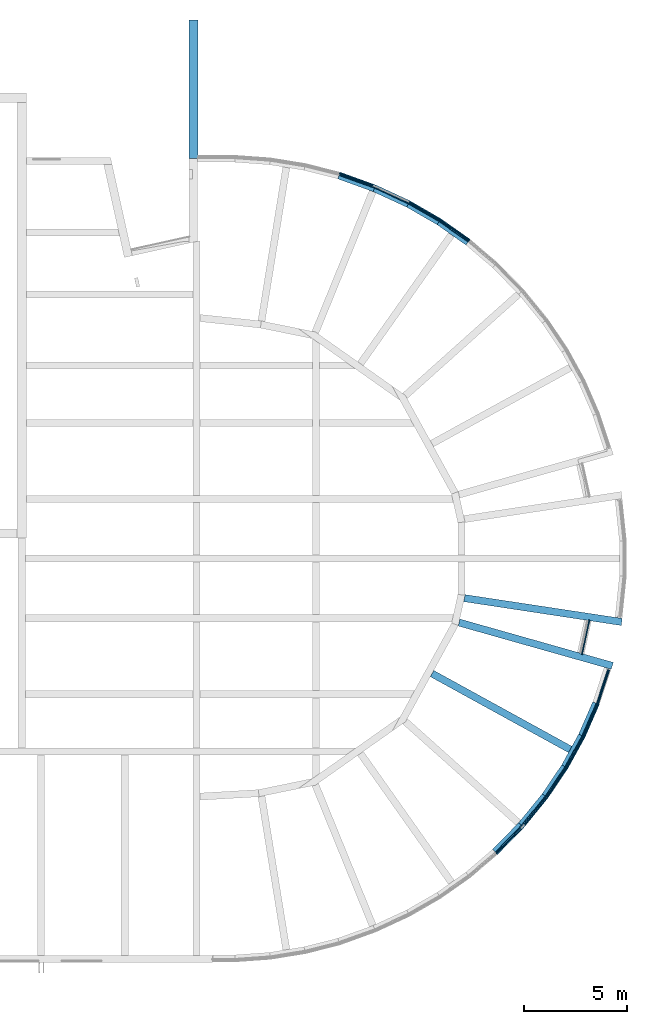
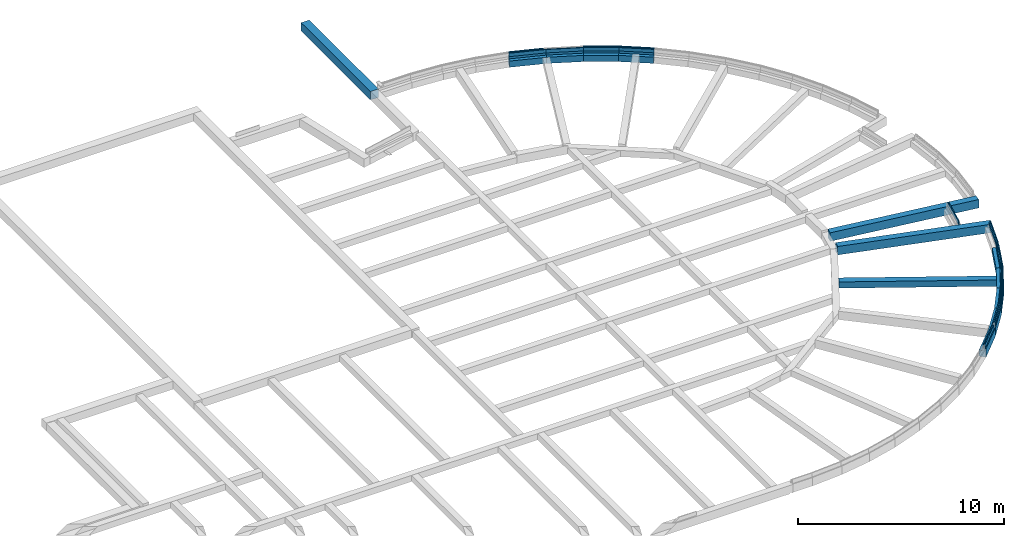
# One storey, part 6 of 11: 33 walls.
"""IFC2X3 building model written with IfcOpenShell, lengths in millimetres."""

import ifcopenshell
import ifcopenshell.guid

model = None  # the IFC model being written
_history = None  # IfcOwnerHistory: only IFC2X3 demands one
_inside = {}  # id of a spatial element -> (the spatial element, [elements in it])
_under = {}  # id of a project, library or spatial element -> (it, [spatial elements below it])
_declared = {}  # id of a project -> (the project, [libraries it declares])
_typed = {}  # id of a type object -> (the type object, [elements of that type])
_made_of = {}  # id of a material, layer set ... -> (it, [elements and type objects made of it])


def new_model(schema):
    """Start an empty IFC model of exactly this schema.

    Asked for "IFC4X3", IfcOpenShell would pick the latest addendum, in which some entities
    have other attributes; the version numbers below select the first issue.
    IFC2X3 requires an IfcOwnerHistory on every rooted entity: one is made here for all.
    """
    global model, _history
    if schema == "IFC4X3":
        model = ifcopenshell.file(schema_version=(4, 3, 0, 0))
    else:
        model = ifcopenshell.file(schema=schema)
    _inside.clear()
    _under.clear()
    _declared.clear()
    _typed.clear()
    _made_of.clear()
    _history = None
    if model.schema == "IFC2X3":
        org = make("IfcOrganization", Name="unknown")
        user = make(
            "IfcPersonAndOrganization",
            ThePerson=make("IfcPerson", FamilyName="unknown"),
            TheOrganization=org,
        )
        app = make(
            "IfcApplication",
            ApplicationDeveloper=org,
            Version="unknown",
            ApplicationFullName="unknown",
            ApplicationIdentifier="unknown",
        )
        _history = make(
            "IfcOwnerHistory",
            OwningUser=user,
            OwningApplication=app,
            ChangeAction="ADDED",
            CreationDate=0,
        )
    return model


def make(cls, **values):
    """One entity of the class cls with the attributes given. An attribute that is None is left unset."""
    return model.create_entity(
        cls, **{name: value for name, value in values.items() if value is not None}
    )


def entity(cls, *values):
    """Any entity or typed value of the class cls, its attributes in the order of the schema. None: left unset."""
    e = model.create_entity(cls)
    for i, value in enumerate(values):
        if value is not None:
            e[i] = value
    return e


def rooted(cls, **values):
    """An entity with a GlobalId (a new one), such as an element, a storey or a relation."""
    return make(cls, GlobalId=ifcopenshell.guid.new(), OwnerHistory=_history, **values)


def si_unit(unit_type, name, prefix=None):
    """IfcSIUnit, for example si_unit("LENGTHUNIT", "METRE", prefix="MILLI")."""
    return make("IfcSIUnit", UnitType=unit_type, Prefix=prefix, Name=name)


def converted_unit(unit_type, name, factor, base, dimensions=None, offset=None):
    """IfcConversionBasedUnit, such as the inch: factor (a typed value) times the base unit."""
    return make(
        "IfcConversionBasedUnit"
        if offset is None
        else "IfcConversionBasedUnitWithOffset",
        ConversionOffset=offset,
        Dimensions=None
        if dimensions is None
        else entity("IfcDimensionalExponents", *dimensions),
        UnitType=unit_type,
        Name=name,
        ConversionFactor=make(
            "IfcMeasureWithUnit", ValueComponent=factor, UnitComponent=base
        ),
    )


def derived_unit(unit_type, elements):
    """IfcDerivedUnit: a product of units, each with its exponent."""
    return make(
        "IfcDerivedUnit",
        Elements=[
            make("IfcDerivedUnitElement", Unit=unit, Exponent=power)
            for unit, power in elements
        ],
        UnitType=unit_type,
    )


def assignment(units):
    """IfcUnitAssignment: the units of a project."""
    return None if units is None else make("IfcUnitAssignment", Units=units)


def point(xyz):
    """IfcCartesianPoint."""
    return None if xyz is None else make("IfcCartesianPoint", Coordinates=xyz)


def direction(xyz):
    """IfcDirection."""
    return None if xyz is None else make("IfcDirection", DirectionRatios=xyz)


def frame(location, z_axis=None, x_axis=None):
    """IfcAxis2Placement3D, a coordinate frame: its origin and axes. An axis left out is left unset."""
    return make(
        "IfcAxis2Placement3D",
        Location=point(location),
        Axis=direction(z_axis),
        RefDirection=direction(x_axis),
    )


def frame_2d(location, x_axis=None):
    """IfcAxis2Placement2D, a coordinate frame in the plane: its origin and x axis."""
    return make(
        "IfcAxis2Placement2D", Location=point(location), RefDirection=direction(x_axis)
    )


def origin():
    """The frame at (0, 0, 0) with its axes left unset."""
    return frame((0.0, 0.0, 0.0))


def place(relative_to, where):
    """IfcLocalPlacement: puts the frame where relative to a parent placement (None: the world)."""
    return make(
        "IfcLocalPlacement", PlacementRelTo=relative_to, RelativePlacement=where
    )


def context(
    kind, dimensions, precision=None, world=None, true_north=None, identifier=None
):
    """IfcGeometricRepresentationContext, for example the 3D "Model" context."""
    return make(
        "IfcGeometricRepresentationContext",
        ContextIdentifier=identifier,
        ContextType=kind,
        CoordinateSpaceDimension=dimensions,
        Precision=precision,
        WorldCoordinateSystem=world,
        TrueNorth=true_north,
    )


def subcontext(parent, identifier, kind, view, scale=None):
    """IfcGeometricRepresentationSubContext, for example "Body" below "Model"."""
    return make(
        "IfcGeometricRepresentationSubContext",
        ContextIdentifier=identifier,
        ContextType=kind,
        ParentContext=parent,
        TargetScale=scale,
        TargetView=view,
    )


def project(units=None, contexts=None):
    """IfcProject with its units and contexts."""
    return rooted(
        "IfcProject",
        Name="project",
        RepresentationContexts=contexts,
        UnitsInContext=assignment(units),
    )


def spatial(cls, under=None, at=None, **own):
    """A site, building, storey or space (cls), placed at a placement, below another one or the project."""
    s = rooted(cls, ObjectPlacement=at, **own)
    if under is not None:
        _under.setdefault(under.id(), (under, []))[1].append(s)
    return s


def polyline(points):
    """IfcPolyline through the points."""
    return make("IfcPolyline", Points=[point(p) for p in points])


def profile(cls, at=None, kind="AREA", **sizes):
    """A parametric profile (cls). Its sizes go by their IFC names, for example OverallWidth=200.0."""
    return make(cls, ProfileType=kind, Position=at, **sizes)


def rectangle(**sizes):
    """IfcRectangleProfileDef."""
    return profile("IfcRectangleProfileDef", **sizes)


def outline(outer, holes=None, kind="AREA"):
    """IfcArbitraryClosedProfileDef: a profile drawn as a closed curve; with holes, ...WithVoids."""
    if holes is None:
        return make("IfcArbitraryClosedProfileDef", ProfileType=kind, OuterCurve=outer)
    return make(
        "IfcArbitraryProfileDefWithVoids",
        ProfileType=kind,
        OuterCurve=outer,
        InnerCurves=holes,
    )


def extrude(swept, where, along, depth):
    """IfcExtrudedAreaSolid: the profile swept, set in the frame where, extruded along a direction by depth."""
    return make(
        "IfcExtrudedAreaSolid",
        SweptArea=swept,
        Position=where,
        ExtrudedDirection=direction(along),
        Depth=depth,
    )


def clip(a, b, op="DIFFERENCE"):
    """IfcBooleanClippingResult: the solid a cut by the half space b."""
    return make(
        "IfcBooleanClippingResult", Operator=op, FirstOperand=a, SecondOperand=b
    )


def bounded_halfspace(plane, agree, where, boundary):
    """IfcPolygonalBoundedHalfSpace: a half space limited to a polygon's prism."""
    return make(
        "IfcPolygonalBoundedHalfSpace",
        BaseSurface=make("IfcPlane", Position=plane),
        AgreementFlag=agree,
        Position=where,
        PolygonalBoundary=boundary,
    )


def shape(context_of_items, identifier, shape_type, items):
    """IfcShapeRepresentation: the items that make up one representation, for example the "Body"."""
    return make(
        "IfcShapeRepresentation",
        ContextOfItems=context_of_items,
        RepresentationIdentifier=identifier,
        RepresentationType=shape_type,
        Items=items,
    )


def material(Name=None, Category=None):
    """IfcMaterial."""
    return make("IfcMaterial", Name=Name, Category=Category)


def layer(
    of_material, thickness, ventilated=None, Name=None, Category=None, Priority=None
):
    """IfcMaterialLayer: one layer of a wall or slab, of a material (None: an air gap)."""
    return make(
        "IfcMaterialLayer",
        Material=of_material,
        LayerThickness=thickness,
        IsVentilated=ventilated,
        Name=Name,
        Category=Category,
        Priority=Priority,
    )


def layer_set(layers, Name=None):
    """IfcMaterialLayerSet."""
    return make("IfcMaterialLayerSet", MaterialLayers=layers, LayerSetName=Name)


def layer_usage(for_layer_set, set_direction, sense, offset, extent=None):
    """IfcMaterialLayerSetUsage: how a layer set lies in its element."""
    return make(
        "IfcMaterialLayerSetUsage",
        ForLayerSet=for_layer_set,
        LayerSetDirection=set_direction,
        DirectionSense=sense,
        OffsetFromReferenceLine=offset,
        ReferenceExtent=extent,
    )


def made_of(thing, what):
    """Note that an element or type object is made of a material, layer set ...; save() writes the relation."""
    if what is not None:
        _made_of.setdefault(what.id(), (what, []))[1].append(thing)
    return thing


def type_object(cls, material=None, **own):
    """A type object (cls), such as IfcWallType, which elements share."""
    return made_of(rooted(cls, **own), material)


def element(
    cls,
    number,
    at=None,
    inside=None,
    cuts=None,
    type_object=None,
    material=None,
    context=None,
    identifier="Body",
    shape_type=None,
    held_by="IfcProductDefinitionShape",
    body=None,
    shapes=None,
    **own,
):
    """One element of the class cls, such as IfcWall. Its Tag is "e" and its number.

    at: its placement. inside: the storey or other place that contains it. cuts: it is an
    opening in that element (IfcRelVoidsElement). A single representation is given by context,
    identifier, shape_type and body (its items); several are given by shapes. held_by: the class
    of the entity that holds the representations. save() writes the other relations.
    """
    e = rooted(cls, Tag="e%d" % number, ObjectPlacement=at, **own)
    if body is not None:
        shapes = [shape(context, identifier, shape_type, body)]
    if shapes is not None:
        e.Representation = make(held_by, Representations=shapes)
    if inside is not None:
        _inside.setdefault(inside.id(), (inside, []))[1].append(e)
    if cuts is not None:
        rooted(
            "IfcRelVoidsElement", RelatingBuildingElement=cuts, RelatedOpeningElement=e
        )
    if type_object is not None:
        _typed.setdefault(type_object.id(), (type_object, []))[1].append(e)
    return made_of(e, material)


def aggregate(whole, parts):
    """IfcRelAggregates: a whole, such as a stair, and the parts it consists of."""
    return rooted("IfcRelAggregates", RelatingObject=whole, RelatedObjects=parts)


def save(model, path):
    """Write the relations noted so far, then the file.

    IfcRelAggregates (storeys below a building ...), IfcRelContainedInSpatialStructure (elements
    in a storey), IfcRelDefinesByType, IfcRelAssociatesMaterial and IfcRelDeclares: one each for
    every whole, place, type object, material and project.
    """
    for whole, parts in _under.values():
        aggregate(whole, parts)
    for where, things in _inside.values():
        rooted(
            "IfcRelContainedInSpatialStructure",
            RelatedElements=things,
            RelatingStructure=where,
        )
    for kind, things in _typed.values():
        rooted("IfcRelDefinesByType", RelatedObjects=things, RelatingType=kind)
    for what, things in _made_of.values():
        rooted("IfcRelAssociatesMaterial", RelatedObjects=things, RelatingMaterial=what)
    for by, libraries in _declared.values():
        rooted("IfcRelDeclares", RelatingContext=by, RelatedDefinitions=libraries)
    model.write(path)


model = new_model("IFC2X3")

# Units and contexts
model_context = context("Model", 3, precision=0.01, world=origin(), true_north=direction((6.12303176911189e-17, 1.0)))
body_context = subcontext(model_context, "Body", "Model", "MODEL_VIEW")
ifc_project = project(units=[si_unit("LENGTHUNIT", "METRE", prefix="MILLI"), si_unit("AREAUNIT", "SQUARE_METRE"), si_unit("VOLUMEUNIT", "CUBIC_METRE"), converted_unit("PLANEANGLEUNIT", "DEGREE", entity("IfcRatioMeasure", 0.0174532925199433), si_unit("PLANEANGLEUNIT", "RADIAN"), dimensions=[0, 0, 0, 0, 0, 0, 0]), si_unit("MASSUNIT", "GRAM", prefix="KILO"), derived_unit("MASSDENSITYUNIT", [(si_unit("MASSUNIT", "GRAM", prefix="KILO"), 1), (si_unit("LENGTHUNIT", "METRE"), -3)]), derived_unit("MOMENTOFINERTIAUNIT", [(si_unit("LENGTHUNIT", "METRE"), 4)]), si_unit("TIMEUNIT", "SECOND"), si_unit("FREQUENCYUNIT", "HERTZ"), si_unit("THERMODYNAMICTEMPERATUREUNIT", "DEGREE_CELSIUS"), derived_unit("THERMALTRANSMITTANCEUNIT", [(si_unit("MASSUNIT", "GRAM", prefix="KILO"), 1), (si_unit("THERMODYNAMICTEMPERATUREUNIT", "KELVIN"), -1), (si_unit("TIMEUNIT", "SECOND"), -3)]), derived_unit("VOLUMETRICFLOWRATEUNIT", [(si_unit("LENGTHUNIT", "METRE"), 3), (si_unit("TIMEUNIT", "SECOND"), -1)]), si_unit("ELECTRICCURRENTUNIT", "AMPERE"), si_unit("ELECTRICVOLTAGEUNIT", "VOLT"), si_unit("POWERUNIT", "WATT"), si_unit("FORCEUNIT", "NEWTON", prefix="KILO"), si_unit("ILLUMINANCEUNIT", "LUX"), si_unit("LUMINOUSFLUXUNIT", "LUMEN"), si_unit("LUMINOUSINTENSITYUNIT", "CANDELA"), derived_unit("USERDEFINED", [(si_unit("MASSUNIT", "GRAM", prefix="KILO"), -1), (si_unit("LENGTHUNIT", "METRE"), -2), (si_unit("TIMEUNIT", "SECOND"), 3), (si_unit("LUMINOUSFLUXUNIT", "LUMEN"), 1)]), derived_unit("LINEARVELOCITYUNIT", [(si_unit("LENGTHUNIT", "METRE"), 1), (si_unit("TIMEUNIT", "SECOND"), -1)]), si_unit("PRESSUREUNIT", "PASCAL"), derived_unit("USERDEFINED", [(si_unit("LENGTHUNIT", "METRE"), -2), (si_unit("MASSUNIT", "GRAM", prefix="KILO"), 1), (si_unit("TIMEUNIT", "SECOND"), -2)]), derived_unit("LINEARFORCEUNIT", [(si_unit("MASSUNIT", "GRAM", prefix="KILO"), 1), (si_unit("LENGTHUNIT", "METRE"), 1), (si_unit("TIMEUNIT", "SECOND"), -2), (si_unit("LENGTHUNIT", "METRE"), -1)]), derived_unit("PLANARFORCEUNIT", [(si_unit("MASSUNIT", "GRAM", prefix="KILO"), 1), (si_unit("LENGTHUNIT", "METRE"), 1), (si_unit("TIMEUNIT", "SECOND"), -2), (si_unit("LENGTHUNIT", "METRE"), -2)])], contexts=[model_context])

# Site, building, storey
site_placement = place(None, origin())
site = spatial("IfcSite", under=ifc_project, at=site_placement, Name="Default", CompositionType="ELEMENT")
building_placement = place(site_placement, origin())
building = spatial("IfcBuilding", under=site, at=building_placement, Name="-", CompositionType="ELEMENT")
storey_placement = place(building_placement, frame((0.0, 0.0, -780.0)))
storey = spatial("IfcBuildingStorey", under=building, at=storey_placement, Name="ok. fundering", CompositionType="ELEMENT", Elevation=-780.0)

# Walls
ifc_material_1 = material(Name="NLRS_g2_baksteen  rood genuanceerd Klamp")
ifc_layer_1 = layer(ifc_material_1, 50.0)
ifc_layer_set_1 = layer_set([ifc_layer_1], Name="Basic Wall:NLRS_20_WA_Metselwerk klamp, Eems wf-p-0081-25")
ifc_layer_usage_1 = layer_usage(ifc_layer_set_1, "AXIS2", "NEGATIVE", 25.0)
wall_type_1 = type_object("IfcWallType", Name="Basic Wall:NLRS_20_WA_Metselwerk klamp, Eems wf-p-0081-25", PredefinedType="STANDARD", material=ifc_layer_set_1)
wall_1_placement = place(storey_placement, frame((68080.0441611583, 14958.1958362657, 500.0), z_axis=(0.0, 0.0, 1.0), x_axis=(0.211580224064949, 0.977360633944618, 0.0)))
element("IfcWallStandardCase", 1, at=wall_1_placement, inside=storey, type_object=wall_type_1, material=ifc_layer_usage_1, Name="Basic Wall:NLRS_20_WA_Metselwerk klamp, Eems wf-p-0081-25", ObjectType="Basic Wall:NLRS_20_WA_Metselwerk klamp, Eems wf-p-0081-25", context=body_context, shape_type="SweptSolid", body=[
    extrude(rectangle(XDim=1713.26869048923, YDim=50.0000000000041, at=frame_2d((856.634345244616, -1.93978166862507e-12), x_axis=(-1.0, 0.0))), origin(), (0.0, 0.0, 1.0), 239.99999999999),
])
ifc_layer_usage_2 = layer_usage(ifc_layer_set_1, "AXIS2", "NEGATIVE", 25.0)
wall_2_placement = place(storey_placement, frame((63924.1781699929, 5288.65629271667, 500.0), z_axis=(0.0, 0.0, 1.0), x_axis=(0.699555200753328, 0.714578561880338, 0.0)))
element("IfcWallStandardCase", 2, at=wall_2_placement, inside=storey, type_object=wall_type_1, material=ifc_layer_usage_2, Name="Basic Wall:NLRS_20_WA_Metselwerk klamp, Eems wf-p-0081-25", ObjectType="Basic Wall:NLRS_20_WA_Metselwerk klamp, Eems wf-p-0081-25", context=body_context, shape_type="SweptSolid", body=[
    extrude(outline(polyline([(1721.50491262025, -25.0), (1720.37161252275, 25.0), (2.27048671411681, 25.0), (0.0, -25.0), (1721.50491262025, -25.0)])), origin(), (0.0, 0.0, 1.0), 239.99999999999),
])
ifc_layer_usage_3 = layer_usage(ifc_layer_set_1, "AXIS2", "NEGATIVE", 25.0)
wall_3_placement = place(storey_placement, frame((65278.983931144, 6687.18494779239, 500.0), z_axis=(0.0, 0.0, 1.0), x_axis=(0.631996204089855, 0.774971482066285, 0.0)))
element("IfcWallStandardCase", 3, at=wall_3_placement, inside=storey, type_object=wall_type_1, material=ifc_layer_usage_3, Name="Basic Wall:NLRS_20_WA_Metselwerk klamp, Eems wf-p-0081-25", ObjectType="Basic Wall:NLRS_20_WA_Metselwerk klamp, Eems wf-p-0081-25", context=body_context, shape_type="SweptSolid", body=[
    extrude(outline(polyline([(1721.50491261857, -25.0), (1719.23442590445, 25.0), (1.13330009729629, 25.0), (0.0, -25.0), (1721.50491261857, -25.0)])), origin(), (0.0, 0.0, 1.0), 239.99999999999),
])
ifc_layer_usage_4 = layer_usage(ifc_layer_set_1, "AXIS2", "NEGATIVE", 25.0)
wall_4_placement = place(storey_placement, frame((66365.6162519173, 8019.48119357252, 500.0), z_axis=(0.0, 0.0, 1.0), x_axis=(0.559157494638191, 0.829061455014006, 0.0)))
element("IfcWallStandardCase", 4, at=wall_4_placement, inside=storey, type_object=wall_type_1, material=ifc_layer_usage_4, Name="Basic Wall:NLRS_20_WA_Metselwerk klamp, Eems wf-p-0081-25", ObjectType="Basic Wall:NLRS_20_WA_Metselwerk klamp, Eems wf-p-0081-25", context=body_context, shape_type="SweptSolid", body=[
    extrude(outline(polyline([(1733.38823576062, -25.0), (1731.11774904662, 25.0), (2.27048671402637, 25.0), (0.0, -25.0), (1733.38823576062, -25.0)])), origin(), (0.0, 0.0, 1.0), 239.99999999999),
])
ifc_layer_usage_5 = layer_usage(ifc_layer_set_1, "AXIS2", "NEGATIVE", 25.0)
wall_5_placement = place(storey_placement, frame((67333.6716300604, 9454.63053521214, 500.0), z_axis=(0.0, 0.0, 1.0), x_axis=(0.481716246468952, 0.876327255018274, 0.0)))
element("IfcWallStandardCase", 5, at=wall_5_placement, inside=storey, type_object=wall_type_1, material=ifc_layer_usage_5, Name="Basic Wall:NLRS_20_WA_Metselwerk klamp, Eems wf-p-0081-25", ObjectType="Basic Wall:NLRS_20_WA_Metselwerk klamp, Eems wf-p-0081-25", context=body_context, shape_type="SweptSolid", body=[
    extrude(outline(polyline([(1733.38433557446, -25.0), (1731.11248812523, 25.0), (2.27048671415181, 25.0), (0.0, -25.0), (1733.38433557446, -25.0)])), origin(), (0.0, 0.0, 1.0), 239.99999999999),
])
ifc_layer_usage_6 = layer_usage(ifc_layer_set_1, "AXIS2", "NEGATIVE", 25.0)
wall_6_placement = place(storey_placement, frame((68167.6691680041, 10971.6060686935, 500.0), z_axis=(0.0, 0.0, 1.0), x_axis=(0.400260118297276, 0.916401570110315, 0.0)))
element("IfcWallStandardCase", 6, at=wall_6_placement, inside=storey, type_object=wall_type_1, material=ifc_layer_usage_6, Name="Basic Wall:NLRS_20_WA_Metselwerk klamp, Eems wf-p-0081-25", ObjectType="Basic Wall:NLRS_20_WA_Metselwerk klamp, Eems wf-p-0081-25", context=body_context, shape_type="SweptSolid", body=[
    extrude(outline(polyline([(1733.32005030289, -25.0), (1731.04956358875, 25.0), (2.27184744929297, 25.0), (0.0, -25.0), (1733.32005030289, -25.0)])), origin(), (0.0, 0.0, 1.0), 239.99999999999),
])
ifc_layer_usage_7 = layer_usage(ifc_layer_set_1, "AXIS2", "NEGATIVE", 25.0)
wall_7_placement = place(storey_placement, frame((68860.6354297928, 12557.9057055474, 500.0), z_axis=(0.0, 0.0, 1.0), x_axis=(0.315556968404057, 0.948906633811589, 0.0)))
element("IfcWallStandardCase", 7, at=wall_7_placement, inside=storey, type_object=wall_type_1, material=ifc_layer_usage_7, Name="Basic Wall:NLRS_20_WA_Metselwerk klamp, Eems wf-p-0081-25", ObjectType="Basic Wall:NLRS_20_WA_Metselwerk klamp, Eems wf-p-0081-25", context=body_context, shape_type="SweptSolid", body=[
    extrude(outline(polyline([(1731.08902810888, -25.0), (1731.08902810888, 25.0), (2.27048671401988, 25.0), (0.0, -25.0), (1731.08902810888, -25.0)])), origin(), (0.0, 0.0, 1.0), 239.99999999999),
])
ifc_layer_usage_8 = layer_usage(ifc_layer_set_1, "AXIS2", "NEGATIVE", 25.0)
wall_8_placement = place(storey_placement, frame((62607.7572336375, 35064.1687844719, 500.0), z_axis=(0.0, 0.0, 1.0), x_axis=(-0.817057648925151, 0.576555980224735, 0.0)))
element("IfcWallStandardCase", 8, at=wall_8_placement, inside=storey, type_object=wall_type_1, material=ifc_layer_usage_8, Name="Basic Wall:NLRS_20_WA_Metselwerk klamp, Eems wf-p-0081-25", ObjectType="Basic Wall:NLRS_20_WA_Metselwerk klamp, Eems wf-p-0081-25", context=body_context, shape_type="SweptSolid", body=[
    extrude(outline(polyline([(1733.38433557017, -25.0), (1731.11248812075, 25.0), (2.27048671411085, 25.0), (0.0, -25.0), (1733.38433557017, -25.0)])), origin(), (0.0, 0.0, 1.0), 239.99999999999),
])
ifc_layer_usage_9 = layer_usage(ifc_layer_set_1, "AXIS2", "NEGATIVE", 25.0)
wall_9_placement = place(storey_placement, frame((61193.3941025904, 36062.3389082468, 500.0), z_axis=(0.0, 0.0, 1.0), x_axis=(-0.865976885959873, 0.500084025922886, 0.0)))
element("IfcWallStandardCase", 9, at=wall_9_placement, inside=storey, type_object=wall_type_1, material=ifc_layer_usage_9, Name="Basic Wall:NLRS_20_WA_Metselwerk klamp, Eems wf-p-0081-25", ObjectType="Basic Wall:NLRS_20_WA_Metselwerk klamp, Eems wf-p-0081-25", context=body_context, shape_type="SweptSolid", body=[
    extrude(outline(polyline([(1735.82446358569, -25.0), (1733.55397687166, 25.0), (2.27184744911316, 25.0), (0.0, -25.0), (1735.82446358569, -25.0)])), origin(), (0.0, 0.0, 1.0), 239.99999999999),
])
ifc_layer_usage_10 = layer_usage(ifc_layer_set_1, "AXIS2", "NEGATIVE", 25.0)
wall_10_placement = place(storey_placement, frame((57931.2533731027, 37732.200155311, 500.0), z_axis=(0.0, 0.0, 1.0), x_axis=(-0.94041948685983, 0.3400164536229, 0.0)))
element("IfcWallStandardCase", 10, at=wall_10_placement, inside=storey, type_object=wall_type_1, material=ifc_layer_usage_10, Name="Basic Wall:NLRS_20_WA_Metselwerk klamp, Eems wf-p-0081-25", ObjectType="Basic Wall:NLRS_20_WA_Metselwerk klamp, Eems wf-p-0081-25", context=body_context, shape_type="SweptSolid", body=[
    extrude(outline(polyline([(1734.1639219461, -25.0), (1731.70824427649, 25.0), (1.01703295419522, 25.0), (0.0, -25.0), (1734.1639219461, -25.0)])), origin(), (0.0, 0.0, 1.0), 240.0),
])
ifc_material_2 = material(Name="NLRS_f2_beton")
ifc_layer_2 = layer(ifc_material_2, 450.0)
ifc_layer_set_2 = layer_set([ifc_layer_2], Name="Basic Wall:NLRS_16_WA_funderingsbalk 450x...mm_gen_aly")
ifc_layer_usage_11 = layer_usage(ifc_layer_set_2, "AXIS2", "NEGATIVE", 225.0)
wall_type_2 = type_object("IfcWallType", Name="Basic Wall:NLRS_16_WA_funderingsbalk 450x...mm_gen_aly", PredefinedType="STANDARD", material=ifc_layer_set_2)
wall_11_placement = place(storey_placement, frame((49211.6203901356, 39041.6788221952, 0.0), z_axis=(0.0, 0.0, 1.0), x_axis=(0.0, 1.0, 0.0)))
element("IfcWallStandardCase", 11, at=wall_11_placement, inside=storey, type_object=wall_type_2, material=ifc_layer_usage_11, Name="Basic Wall:NLRS_16_WA_funderingsbalk 450x...mm_gen_aly", ObjectType="Basic Wall:NLRS_16_WA_funderingsbalk 450x...mm_gen_aly", context=body_context, shape_type="SweptSolid", body=[
    extrude(rectangle(XDim=6734.37071970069, YDim=450.000000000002, at=frame_2d((3367.18535985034, 7.105427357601e-14), x_axis=(-1.0, 0.0))), origin(), (0.0, 0.0, 1.0), 499.999999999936),
])
ifc_layer_3 = layer(ifc_material_2, 350.0)
ifc_layer_set_3 = layer_set([ifc_layer_3], Name="Basic Wall:NLRS_16_WA_funderingsbalk 350x...mm_gen_aly")
ifc_layer_usage_12 = layer_usage(ifc_layer_set_3, "AXIS2", "NEGATIVE", 175.0)
wall_type_3 = type_object("IfcWallType", Name="Basic Wall:NLRS_16_WA_funderingsbalk 350x...mm_gen_aly", PredefinedType="STANDARD", material=ifc_layer_set_3)
wall_12_placement = place(storey_placement, frame((65138.4651134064, 6671.96874138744, 0.0), z_axis=(0.0, 0.0, 1.0), x_axis=(-0.699555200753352, -0.714578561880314, 0.0)))
element("IfcWallStandardCase", 12, at=wall_12_placement, inside=storey, type_object=wall_type_3, material=ifc_layer_usage_12, Name="Basic Wall:NLRS_16_WA_funderingsbalk 350x...mm_gen_aly", ObjectType="Basic Wall:NLRS_16_WA_funderingsbalk 350x...mm_gen_aly", context=body_context, shape_type="Clipping", body=[
    clip(clip(extrude(outline(polyline([(1824.32324639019, -175.0), (1840.21665338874, 175.0), (0.0, 175.0), (15.8743567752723, -175.0), (197.136579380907, -175.0), (1824.32324639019, -175.0)])), origin(), (0.0, 0.0, 1.0), 499.999999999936), bounded_halfspace(frame((1832.76945696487, 11.0, 370.0), z_axis=(0.0, 0.0, -1.0), x_axis=(-0.714578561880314, -0.699555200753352, 0.0)), True, frame((1832.76945696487, 11.0, 370.0), z_axis=(0.0, 0.0, -1.0), x_axis=(-0.714578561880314, -0.699555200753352, 0.0)), polyline([(0.0, 0.0), (136.152748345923, -127.003021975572), (1428.43155512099, 1138.10680405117), (1304.34253451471, 1276.91992491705), (0.0, 0.0)]))), bounded_halfspace(frame((7.43827003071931, 11.0, 370.0), z_axis=(0.0, 1.0, 0.0), x_axis=(0.0, 0.0, 1.0)), True, frame((7.43827003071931, 11.0, 370.0), z_axis=(0.0, 1.0, 0.0), x_axis=(0.0, 0.0, 1.0)), polyline([(0.0, 0.0), (130.0, 1.12022624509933e-09), (130.0, 1825.33118693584), (0.0, 1825.33118693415), (0.0, 0.0)]))),
])
ifc_layer_usage_13 = layer_usage(ifc_layer_set_3, "AXIS2", "NEGATIVE", 175.0)
wall_13_placement = place(storey_placement, frame((66290.9062920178, 8086.26134416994, 0.0), z_axis=(0.0, 0.0, 1.0), x_axis=(-0.631996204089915, -0.774971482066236, 0.0)))
element("IfcWallStandardCase", 13, at=wall_13_placement, inside=storey, type_object=wall_type_3, material=ifc_layer_usage_13, Name="Basic Wall:NLRS_16_WA_funderingsbalk 350x...mm_gen_aly", ObjectType="Basic Wall:NLRS_16_WA_funderingsbalk 350x...mm_gen_aly", context=body_context, shape_type="Clipping", body=[
    clip(clip(extrude(outline(polyline([(1824.34229661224, -175.0), (1840.21665338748, 175.0), (0.0, 175.0), (15.8934069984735, -175.0), (1655.24486773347, -175.0), (1824.34229661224, -175.0)])), origin(), (0.0, 0.0, 1.0), 499.999999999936), bounded_halfspace(frame((1832.77838335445, 11.0, 370.0), z_axis=(0.0, 0.0, -1.0), x_axis=(-0.774971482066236, -0.631996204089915, 0.0)), True, frame((1832.77838335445, 11.0, 370.0), z_axis=(0.0, 0.0, -1.0), x_axis=(-0.774971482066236, -0.631996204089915, 0.0)), polyline([(0.0, 0.0), (124.089020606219, -138.813120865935), (1525.58533683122, 1004.11971266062), (1414.57961519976, 1153.60238134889), (0.0, 0.0)]))), bounded_halfspace(frame((7.44719642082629, 11.0, 370.0), z_axis=(0.0, 1.0, 0.0), x_axis=(0.0, 0.0, 1.0)), True, frame((7.44719642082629, 11.0, 370.0), z_axis=(0.0, 1.0, 0.0), x_axis=(0.0, 0.0, 1.0)), polyline([(0.0, 0.0), (130.0, 1.31460059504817e-09), (130.0, 1825.33118693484), (0.0, 1825.33118693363), (0.0, 0.0)]))),
])
ifc_layer_usage_14 = layer_usage(ifc_layer_set_3, "AXIS2", "NEGATIVE", 175.0)
wall_14_placement = place(storey_placement, frame((67253.2166892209, 9514.36468889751, 0.0), z_axis=(0.0, 0.0, 1.0), x_axis=(-0.559157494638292, -0.829061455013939, 0.0)))
element("IfcWallStandardCase", 14, at=wall_14_placement, inside=storey, type_object=wall_type_3, material=ifc_layer_usage_14, Name="Basic Wall:NLRS_16_WA_funderingsbalk 350x...mm_gen_aly", ObjectType="Basic Wall:NLRS_16_WA_funderingsbalk 350x...mm_gen_aly", context=body_context, shape_type="Clipping", body=[
    clip(clip(extrude(outline(polyline([(1722.03580219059, -175.0), (1737.92920918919, 175.0), (0.0, 175.0), (15.8934069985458, -175.0), (1722.03580219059, -175.0)])), origin(), (0.0, 0.0, 1.0), 499.999999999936), bounded_halfspace(frame((1730.48201276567, 11.0, 370.0), z_axis=(0.0, 0.0, -1.0), x_axis=(-0.829061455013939, -0.559157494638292, 0.0)), True, frame((1730.48201276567, 11.0, 370.0), z_axis=(0.0, 0.0, -1.0), x_axis=(-0.829061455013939, -0.559157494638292, 0.0)), polyline([(0.0, 0.0), (111.005721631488, -149.482668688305), (1525.50261825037, 804.519638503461), (1428.50175187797, 963.447831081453), (0.0, 0.0)]))), bounded_halfspace(frame((7.44719642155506, 11.0, 370.0), z_axis=(0.0, 1.0, 0.0), x_axis=(0.0, 0.0, 1.0)), True, frame((7.44719642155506, 11.0, 370.0), z_axis=(0.0, 1.0, 0.0), x_axis=(0.0, 0.0, 1.0)), polyline([(0.0, 0.0), (130.0, 0.0), (130.0, 1723.03481634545), (0.0, 1723.03481634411), (0.0, 0.0)]))),
])
ifc_layer_usage_15 = layer_usage(ifc_layer_set_3, "AXIS2", "NEGATIVE", 175.0)
wall_15_placement = place(storey_placement, frame((68082.1326862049, 11023.8049783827, 0.0), z_axis=(0.0, 0.0, 1.0), x_axis=(-0.481716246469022, -0.876327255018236, 0.0)))
element("IfcWallStandardCase", 15, at=wall_15_placement, inside=storey, type_object=wall_type_3, material=ifc_layer_usage_15, Name="Basic Wall:NLRS_16_WA_funderingsbalk 350x...mm_gen_aly", ObjectType="Basic Wall:NLRS_16_WA_funderingsbalk 350x...mm_gen_aly", context=body_context, shape_type="Clipping", body=[
    clip(clip(extrude(outline(polyline([(1722.03326273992, -175.0), (1737.92666973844, 175.0), (0.0, 175.0), (15.90293214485, -175.0), (697.860182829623, -175.0), (1047.86019032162, -175.0), (1722.03326273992, -175.0)])), origin(), (0.0, 0.0, 1.0), 499.999999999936), bounded_halfspace(frame((1730.47947331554, 11.0, 370.0), z_axis=(0.0, 0.0, -1.0), x_axis=(-0.876327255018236, -0.481716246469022, 0.0)), True, frame((1730.47947331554, 11.0, 370.0), z_axis=(0.0, 0.0, -1.0), x_axis=(-0.876327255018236, -0.481716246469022, 0.0)), polyline([(0.0, 0.0), (97.0008663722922, -158.928192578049), (687.797104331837, 165.831929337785), (994.511650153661, 334.432619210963), (1592.12937568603, 662.942506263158), (1509.93623428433, 830.010490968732), (0.0, 0.0)]))), bounded_halfspace(frame((7.45165963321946, 11.0, 370.0), z_axis=(0.0, 1.0, 0.0), x_axis=(0.0, 0.0, 1.0)), True, frame((7.45165963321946, 11.0, 370.0), z_axis=(0.0, 1.0, 0.0), x_axis=(0.0, 0.0, 1.0)), polyline([(0.0, 0.0), (130.0, 0.0), (130.0, 1723.02781368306), (0.0, 1723.02781368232), (0.0, 0.0)]))),
])
ifc_layer_usage_16 = layer_usage(ifc_layer_set_3, "AXIS2", "NEGATIVE", 175.0)
wall_16_placement = place(storey_placement, frame((68770.7166846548, 12602.1299737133, 0.0), z_axis=(0.0, 0.0, 1.0), x_axis=(-0.400260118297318, -0.916401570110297, 0.0)))
element("IfcWallStandardCase", 16, at=wall_16_placement, inside=storey, type_object=wall_type_3, material=ifc_layer_usage_16, Name="Basic Wall:NLRS_16_WA_funderingsbalk 350x...mm_gen_aly", ObjectType="Basic Wall:NLRS_16_WA_funderingsbalk 350x...mm_gen_aly", context=body_context, shape_type="Clipping", body=[
    clip(clip(extrude(outline(polyline([(1721.95945232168, -175.0), (1737.86238446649, 175.0), (0.0, 175.0), (15.8934069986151, -175.0), (1721.95945232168, -175.0)])), origin(), (0.0, 0.0, 1.0), 499.999999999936), bounded_halfspace(frame((1730.41072483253, 11.0, 370.0), z_axis=(0.0, 0.0, -1.0), x_axis=(-0.916401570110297, -0.400260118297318, 0.0)), True, frame((1730.41072483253, 11.0, 370.0), z_axis=(0.0, 0.0, -1.0), x_axis=(-0.916401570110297, -0.400260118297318, 0.0)), polyline([(0.0, 0.0), (82.1931414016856, -167.067984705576), (1645.6347440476, 515.802212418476), (1578.92648267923, 689.63358570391), (0.0, 0.0)]))), bounded_halfspace(frame((7.44719642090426, 11.0, 370.0), z_axis=(0.0, 1.0, 0.0), x_axis=(0.0, 0.0, 1.0)), True, frame((7.44719642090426, 11.0, 370.0), z_axis=(0.0, 1.0, 0.0), x_axis=(0.0, 0.0, 1.0)), polyline([(0.0, 0.0), (130.0, 1.29727517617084e-09), (130.0, 1722.96352841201), (0.0, 1722.96352841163), (0.0, 0.0)]))),
])
ifc_layer_usage_17 = layer_usage(ifc_layer_set_3, "AXIS2", "NEGATIVE", 175.0)
wall_17_placement = place(storey_placement, frame((61131.9704753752, 35983.165971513, 0.0), z_axis=(0.0, 0.0, 1.0), x_axis=(0.817057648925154, -0.576555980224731, 0.0)))
element("IfcWallStandardCase", 17, at=wall_17_placement, inside=storey, type_object=wall_type_3, material=ifc_layer_usage_17, Name="Basic Wall:NLRS_16_WA_funderingsbalk 350x...mm_gen_aly", ObjectType="Basic Wall:NLRS_16_WA_funderingsbalk 350x...mm_gen_aly", context=body_context, shape_type="Clipping", body=[
    clip(clip(extrude(outline(polyline([(1722.03326273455, -175.0), (1737.92666973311, 175.0), (0.0, 175.0), (15.9029321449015, -175.0), (690.149291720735, -175.0), (1040.14929172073, -175.0), (1722.03326273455, -175.0)])), origin(), (0.0, 0.0, 1.0), 499.999999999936), bounded_halfspace(frame((1730.47947331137, 11.0, 370.0), z_axis=(0.0, 0.0, -1.0), x_axis=(-0.576555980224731, 0.817057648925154, 0.0)), True, frame((1730.47947331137, 11.0, 370.0), z_axis=(0.0, 0.0, -1.0), x_axis=(-0.576555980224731, 0.817057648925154, 0.0)), polyline([(0.0, 0.0), (-147.10300948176, -114.140453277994), (836.576635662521, -1508.14728994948), (993.42199006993, -1407.81305447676), (0.0, 0.0)]))), bounded_halfspace(frame((7.45165963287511, 11.0, 370.0), z_axis=(0.0, 1.0, 0.0), x_axis=(0.0, 0.0, 1.0)), True, frame((7.45165963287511, 11.0, 370.0), z_axis=(0.0, 1.0, 0.0), x_axis=(0.0, 0.0, 1.0)), polyline([(0.0, 0.0), (130.0, 0.0), (130.0, 1723.02781367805), (0.0, 1723.0278136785), (0.0, 0.0)]))),
])
ifc_layer_usage_18 = layer_usage(ifc_layer_set_3, "AXIS2", "NEGATIVE", 175.0)
wall_18_placement = place(storey_placement, frame((59638.2356474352, 36844.9347398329, 0.0), z_axis=(0.0, 0.0, 1.0), x_axis=(0.865976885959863, -0.500084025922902, 0.0)))
element("IfcWallStandardCase", 18, at=wall_18_placement, inside=storey, type_object=wall_type_3, material=ifc_layer_usage_18, Name="Basic Wall:NLRS_16_WA_funderingsbalk 350x...mm_gen_aly", ObjectType="Basic Wall:NLRS_16_WA_funderingsbalk 350x...mm_gen_aly", context=body_context, shape_type="Clipping", body=[
    clip(clip(extrude(outline(polyline([(1724.46386560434, -175.0), (1740.36679774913, 175.0), (0.0, 175.0), (15.8934069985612, -175.0), (1724.46386560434, -175.0)])), origin(), (0.0, 0.0, 1.0), 499.999999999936), bounded_halfspace(frame((1732.91513811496, 11.0, 370.0), z_axis=(0.0, 0.0, -1.0), x_axis=(-0.500084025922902, 0.865976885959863, 0.0)), True, frame((1732.91513811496, 11.0, 370.0), z_axis=(0.0, 0.0, -1.0), x_axis=(-0.500084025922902, 0.865976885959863, 0.0)), polyline([(0.0, 0.0), (-156.845354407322, -100.33423547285), (697.583439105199, -1579.9167606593), (862.878954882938, -1494.21535497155), (0.0, 0.0)]))), bounded_halfspace(frame((7.44719642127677, 11.0, 370.0), z_axis=(0.0, 1.0, 0.0), x_axis=(0.0, 0.0, 1.0)), True, frame((7.44719642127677, 11.0, 370.0), z_axis=(0.0, 1.0, 0.0), x_axis=(0.0, 0.0, 1.0)), polyline([(0.0, 0.0), (130.0, 0.0), (130.0, 1725.46794169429), (0.0, 1725.46794169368), (0.0, 0.0)]))),
])
ifc_layer_usage_19 = layer_usage(ifc_layer_set_3, "AXIS2", "NEGATIVE", 175.0)
wall_19_placement = place(storey_placement, frame((57996.1126001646, 37603.1020343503, 0.0), z_axis=(0.0, 0.0, 1.0), x_axis=(0.90773677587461, -0.419540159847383, 0.0)))
element("IfcWallStandardCase", 19, at=wall_19_placement, inside=storey, type_object=wall_type_3, material=ifc_layer_usage_19, Name="Basic Wall:NLRS_16_WA_funderingsbalk 350x...mm_gen_aly", ObjectType="Basic Wall:NLRS_16_WA_funderingsbalk 350x...mm_gen_aly", context=body_context, shape_type="Clipping", body=[
    clip(clip(extrude(outline(polyline([(1808.66440298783, -175.0), (1824.55780998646, 175.0), (0.0, 175.0), (15.0600345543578, -175.0), (170.429080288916, -175.0), (1808.66440298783, -175.0)])), origin(), (0.0, 0.0, 1.0), 499.999999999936), bounded_halfspace(frame((1817.11061356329, 11.0, 370.0), z_axis=(0.0, 0.0, -1.0), x_axis=(-0.419540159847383, 0.90773677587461, 0.0)), True, frame((1817.11061356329, 11.0, 370.0), z_axis=(0.0, 0.0, -1.0), x_axis=(-0.419540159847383, 0.90773677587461, 0.0)), polyline([(0.0, 0.0), (-165.295515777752, -85.7014056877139), (587.193547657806, -1713.82205228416), (759.390307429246, -1643.05250192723), (0.0, 0.0)]))), bounded_halfspace(frame((7.05670190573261, 11.0, 370.0), z_axis=(0.0, 1.0, 0.0), x_axis=(0.0, 0.0, 1.0)), True, frame((7.05670190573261, 11.0, 370.0), z_axis=(0.0, 1.0, 0.0), x_axis=(0.0, 0.0, 1.0)), polyline([(0.0, 0.0), (130.0, 0.0), (130.0, 1810.05391165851), (0.0, 1810.05391165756), (0.0, 0.0)]))),
])
ifc_layer_usage_20 = layer_usage(ifc_layer_set_3, "AXIS2", "NEGATIVE", 175.0)
wall_20_placement = place(storey_placement, frame((56267.4713594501, 38227.4187959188, 0.0), z_axis=(0.0, 0.0, 1.0), x_axis=(0.940419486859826, -0.340016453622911, 0.0)))
element("IfcWallStandardCase", 20, at=wall_20_placement, inside=storey, type_object=wall_type_3, material=ifc_layer_usage_20, Name="Basic Wall:NLRS_16_WA_funderingsbalk 350x...mm_gen_aly", ObjectType="Basic Wall:NLRS_16_WA_funderingsbalk 350x...mm_gen_aly", context=body_context, shape_type="Clipping", body=[
    clip(clip(extrude(outline(polyline([(1837.89804814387, -175.0), (1852.95808269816, 175.0), (0.0, 175.0), (17.189743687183, -175.0), (1642.94655275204, -175.0), (1837.89804814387, -175.0)])), origin(), (0.0, 0.0, 1.0), 499.999999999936), bounded_halfspace(frame((1845.90138079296, 11.0, 370.0), z_axis=(0.0, 0.0, -1.0), x_axis=(-0.340016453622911, 0.940419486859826, 0.0)), True, frame((1845.90138079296, 11.0, 370.0), z_axis=(0.0, 0.0, -1.0), x_axis=(-0.340016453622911, 0.940419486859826, 0.0)), polyline([(0.0, 0.0), (-172.196759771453, -70.7695503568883), (446.8740209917, -1782.99911975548), (624.898136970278, -1728.34690512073), (0.0, 0.0)]))), bounded_halfspace(frame((8.05462275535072, 11.0, 370.0), z_axis=(0.0, 1.0, 0.0), x_axis=(0.0, 0.0, 1.0)), True, frame((8.05462275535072, 11.0, 370.0), z_axis=(0.0, 1.0, 0.0), x_axis=(0.0, 0.0, 1.0)), polyline([(0.0, 0.0), (130.0, 0.0), (130.0, 1837.84675803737), (0.0, 1837.84675803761), (0.0, 0.0)]))),
])
ifc_layer_usage_21 = layer_usage(ifc_layer_set_3, "AXIS2", "NEGATIVE", 175.0)
wall_21_placement = place(storey_placement, frame((62101.5526039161, 16511.9763400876, 0.0), z_axis=(0.0, 0.0, 1.0), x_axis=(0.962267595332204, -0.272104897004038, 0.0)))
element("IfcWallStandardCase", 21, at=wall_21_placement, inside=storey, type_object=wall_type_3, material=ifc_layer_usage_21, Name="Basic Wall:NLRS_16_WA_funderingsbalk 350x...mm_gen_aly", ObjectType="Basic Wall:NLRS_16_WA_funderingsbalk 350x...mm_gen_aly", context=body_context, shape_type="SweptSolid", body=[
    extrude(outline(polyline([(7736.51378735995, -175.0), (7752.43707703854, 175.0), (6279.42028853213, 175.0), (5928.73802991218, 175.0), (0.0, 175.0), (20.2420540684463, -150.591431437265), (14.6086245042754, -175.0), (7386.1517586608, -175.0), (7736.51378735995, -175.0)])), origin(), (0.0, 0.0, 1.0), 499.999999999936),
])
ifc_layer_usage_22 = layer_usage(ifc_layer_set_3, "AXIS2", "NEGATIVE", 175.0)
wall_22_placement = place(storey_placement, frame((70021.8716015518, 16534.4212513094, 0.0), z_axis=(0.0, 0.0, 1.0), x_axis=(-0.988721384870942, 0.149766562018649, 0.0)))
element("IfcWallStandardCase", 22, at=wall_22_placement, inside=storey, type_object=wall_type_3, material=ifc_layer_usage_22, Name="Basic Wall:NLRS_16_WA_funderingsbalk 350x...mm_gen_aly", ObjectType="Basic Wall:NLRS_16_WA_funderingsbalk 350x...mm_gen_aly", context=body_context, shape_type="SweptSolid", body=[
    extrude(outline(polyline([(7735.8241773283, -175.0), (7731.19268580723, -144.424051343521), (7751.39355456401, 175.0), (1822.73770884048, 175.0), (1472.04509171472, 175.0), (0.0, 175.0), (15.9754248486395, -175.0), (366.339826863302, -175.0), (7735.8241773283, -175.0)])), origin(), (0.0, 0.0, 1.0), 499.999999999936),
])
ifc_layer_usage_23 = layer_usage(ifc_layer_set_3, "AXIS2", "NEGATIVE", 175.0)
wall_23_placement = place(storey_placement, frame((60798.8029772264, 14029.5931138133, 0.0), z_axis=(0.0, 0.0, 1.0), x_axis=(0.876426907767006, -0.481534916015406, 0.0)))
element("IfcWallStandardCase", 23, at=wall_23_placement, inside=storey, type_object=wall_type_3, material=ifc_layer_usage_23, Name="Basic Wall:NLRS_16_WA_funderingsbalk 350x...mm_gen_aly", ObjectType="Basic Wall:NLRS_16_WA_funderingsbalk 350x...mm_gen_aly", context=body_context, shape_type="Clipping", body=[
    clip(extrude(outline(polyline([(7655.48126430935, -175.0), (7655.55368251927, 175.0), (0.0, 175.0), (0.0, -175.0), (7655.48126430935, -175.0)])), origin(), (0.0, 0.0, 1.0), 369.999999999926), bounded_halfspace(frame((0.0, -175.0, 370.0), z_axis=(0.0, 0.0, -1.0), x_axis=(-0.481534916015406, 0.876426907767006, 0.0)), True, frame((0.0, -175.0, 370.0), z_axis=(0.0, 0.0, -1.0), x_axis=(-0.481534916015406, 0.876426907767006, 0.0)), polyline([(0.0, 0.0), (306.749417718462, 168.53722060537), (-3379.66698184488, 6878.07046182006), (-3686.38152766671, 6709.46977194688), (0.0, 0.0)]))),
])
ifc_material_3 = material(Name="NLRS_n7_isolatie PIR_gen")
ifc_layer_4 = layer(ifc_material_3, 60.0)
ifc_layer_set_4 = layer_set([ifc_layer_4], Name="Basic Wall:NLRS_22_WA_LB_isolatie PIR 60mm")
ifc_layer_usage_24 = layer_usage(ifc_layer_set_4, "AXIS2", "NEGATIVE", 30.0)
wall_type_4 = type_object("IfcWallType", Name="Basic Wall:NLRS_22_WA_LB_isolatie PIR 60mm", PredefinedType="STANDARD", material=ifc_layer_set_4)
wall_24_placement = place(storey_placement, frame((65162.6512787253, 6637.88957567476, 500.0), z_axis=(0.0, 0.0, 1.0), x_axis=(0.631996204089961, 0.774971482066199, 0.0)))
element("IfcWallStandardCase", 24, at=wall_24_placement, inside=storey, type_object=wall_type_4, material=ifc_layer_usage_24, Name="Basic Wall:NLRS_22_WA_LB_isolatie PIR 60mm", ObjectType="Basic Wall:NLRS_22_WA_LB_isolatie PIR 60mm", context=body_context, shape_type="SweptSolid", body=[
    extrude(outline(polyline([(1830.77708929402, -30.0), (1828.05250523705, 30.0), (2.72131830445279, 30.0), (0.0, -30.0), (1830.77708929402, -30.0)])), origin(), (0.0, 0.0, 1.0), 201.99999999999),
])
ifc_layer_usage_25 = layer_usage(ifc_layer_set_4, "AXIS2", "NEGATIVE", 30.0)
wall_25_placement = place(storey_placement, frame((66318.0727505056, 8054.50444861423, 500.0), z_axis=(0.0, 0.0, 1.0), x_axis=(0.559157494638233, 0.829061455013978, 0.0)))
element("IfcWallStandardCase", 25, at=wall_25_placement, inside=storey, type_object=wall_type_4, material=ifc_layer_usage_25, Name="Basic Wall:NLRS_22_WA_LB_isolatie PIR 60mm", ObjectType="Basic Wall:NLRS_22_WA_LB_isolatie PIR 60mm", context=body_context, shape_type="SweptSolid", body=[
    extrude(outline(polyline([(1728.48398445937, -30.0), (1725.75940040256, 30.0), (2.72458405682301, 30.0), (0.0, -30.0), (1728.48398445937, -30.0)])), origin(), (0.0, 0.0, 1.0), 201.99999999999),
])
ifc_layer_usage_26 = layer_usage(ifc_layer_set_4, "AXIS2", "NEGATIVE", 30.0)
wall_26_placement = place(storey_placement, frame((67283.149550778, 9485.20065829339, 500.0), z_axis=(0.0, 0.0, 1.0), x_axis=(0.481716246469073, 0.876327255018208, 0.0)))
element("IfcWallStandardCase", 26, at=wall_26_placement, inside=storey, type_object=wall_type_4, material=ifc_layer_usage_26, Name="Basic Wall:NLRS_22_WA_LB_isolatie PIR 60mm", ObjectType="Basic Wall:NLRS_22_WA_LB_isolatie PIR 60mm", context=body_context, shape_type="SweptSolid", body=[
    extrude(outline(polyline([(1728.47861467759, -30.0), (1725.75239773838, 30.0), (2.72458405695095, 30.0), (0.0, -30.0), (1728.47861467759, -30.0)])), origin(), (0.0, 0.0, 1.0), 201.99999999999),
])
ifc_layer_usage_27 = layer_usage(ifc_layer_set_4, "AXIS2", "NEGATIVE", 30.0)
wall_27_placement = place(storey_placement, frame((68114.5835516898, 10997.4698942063, 500.0), z_axis=(0.0, 0.0, 1.0), x_axis=(0.400260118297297, 0.916401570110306, 0.0)))
element("IfcWallStandardCase", 27, at=wall_27_placement, inside=storey, type_object=wall_type_4, material=ifc_layer_usage_27, Name="Basic Wall:NLRS_22_WA_LB_isolatie PIR 60mm", ObjectType="Basic Wall:NLRS_22_WA_LB_isolatie PIR 60mm", context=body_context, shape_type="SweptSolid", body=[
    extrude(outline(polyline([(1730.91874269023, -30.0), (1728.19415863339, 30.0), (2.72621693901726, 30.0), (0.0, -30.0), (1730.91874269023, -30.0)])), origin(), (0.0, 0.0, 1.0), 202.0),
])
ifc_layer_usage_28 = layer_usage(ifc_layer_set_4, "AXIS2", "NEGATIVE", 30.0)
wall_28_placement = place(storey_placement, frame((68806.426140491, 12581.1454532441, 500.0), z_axis=(0.0, 0.0, 1.0), x_axis=(0.315556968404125, 0.948906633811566, 0.0)))
element("IfcWallStandardCase", 28, at=wall_28_placement, inside=storey, type_object=wall_type_4, material=ifc_layer_usage_28, Name="Basic Wall:NLRS_22_WA_LB_isolatie PIR 60mm", ObjectType="Basic Wall:NLRS_22_WA_LB_isolatie PIR 60mm", context=body_context, shape_type="SweptSolid", body=[
    extrude(outline(polyline([(1714.85421902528, -30.0), (1714.85421902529, 30.0), (2.72458405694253, 30.0), (0.0, -30.0), (1714.85421902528, -30.0)])), origin(), (0.0, 0.0, 1.0), 201.99999999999),
])
ifc_layer_usage_29 = layer_usage(ifc_layer_set_4, "AXIS2", "NEGATIVE", 30.0)
wall_29_placement = place(storey_placement, frame((63883.7334320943, 5331.68228598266, 500.0), z_axis=(0.0, 0.0, 1.0), x_axis=(0.699555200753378, 0.714578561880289, 0.0)))
element("IfcWallStandardCase", 29, at=wall_29_placement, inside=storey, type_object=wall_type_4, material=ifc_layer_usage_29, Name="Basic Wall:NLRS_22_WA_LB_isolatie PIR 60mm", ObjectType="Basic Wall:NLRS_22_WA_LB_isolatie PIR 60mm", context=body_context, shape_type="SweptSolid", body=[
    extrude(outline(polyline([(1830.77708929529, -30.0), (1828.05577099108, 30.0), (2.72458405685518, 30.0), (0.0, -30.0), (1830.77708929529, -30.0)])), origin(), (0.0, 0.0, 1.0), 201.99999999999),
])
ifc_layer_usage_30 = layer_usage(ifc_layer_set_4, "AXIS2", "NEGATIVE", 30.0)
wall_30_placement = place(storey_placement, frame((62571.7369027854, 35017.3761708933, 500.0), z_axis=(0.0, 0.0, 1.0), x_axis=(-0.817057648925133, 0.576555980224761, 0.0)))
element("IfcWallStandardCase", 30, at=wall_30_placement, inside=storey, type_object=wall_type_4, material=ifc_layer_usage_30, Name="Basic Wall:NLRS_22_WA_LB_isolatie PIR 60mm", ObjectType="Basic Wall:NLRS_22_WA_LB_isolatie PIR 60mm", context=body_context, shape_type="SweptSolid", body=[
    extrude(outline(polyline([(1728.47861467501, -30.0), (1725.75239773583, 30.0), (2.72458405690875, 30.0), (0.0, -30.0), (1728.47861467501, -30.0)])), origin(), (0.0, 0.0, 1.0), 201.99999999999),
])
ifc_layer_usage_31 = layer_usage(ifc_layer_set_4, "AXIS2", "NEGATIVE", 30.0)
wall_31_placement = place(storey_placement, frame((61161.7643882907, 36012.4732757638, 500.0), z_axis=(0.0, 0.0, 1.0), x_axis=(-0.865976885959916, 0.500084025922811, 0.0)))
element("IfcWallStandardCase", 31, at=wall_31_placement, inside=storey, type_object=wall_type_4, material=ifc_layer_usage_31, Name="Basic Wall:NLRS_22_WA_LB_isolatie PIR 60mm", ObjectType="Basic Wall:NLRS_22_WA_LB_isolatie PIR 60mm", context=body_context, shape_type="SweptSolid", body=[
    extrude(outline(polyline([(1730.91874268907, -30.0), (1728.19415863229, 30.0), (2.72621693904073, 30.0), (0.0, -30.0), (1730.91874268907, -30.0)])), origin(), (0.0, 0.0, 1.0), 201.99999999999),
])
ifc_layer_usage_32 = layer_usage(ifc_layer_set_4, "AXIS2", "NEGATIVE", 30.0)
wall_32_placement = place(storey_placement, frame((59665.2450816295, 36876.8252924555, 500.0), z_axis=(0.0, 0.0, 1.0), x_axis=(-0.907736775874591, 0.419540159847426, 0.0)))
element("IfcWallStandardCase", 32, at=wall_32_placement, inside=storey, type_object=wall_type_4, material=ifc_layer_usage_32, Name="Basic Wall:NLRS_22_WA_LB_isolatie PIR 60mm", ObjectType="Basic Wall:NLRS_22_WA_LB_isolatie PIR 60mm", context=body_context, shape_type="SweptSolid", body=[
    extrude(outline(polyline([(1815.360215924, -30.0), (1812.77849571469, 30.0), (2.72458405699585, 30.0), (0.0, -30.0), (1815.360215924, -30.0)])), origin(), (0.0, 0.0, 1.0), 201.99999999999),
])
ifc_layer_usage_33 = layer_usage(ifc_layer_set_4, "AXIS2", "NEGATIVE", 30.0)
wall_33_placement = place(storey_placement, frame((58019.7615633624, 37637.4613262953, 500.0), z_axis=(0.0, 0.0, 1.0), x_axis=(-0.940419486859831, 0.340016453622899, 0.0)))
element("IfcWallStandardCase", 33, at=wall_33_placement, inside=storey, type_object=wall_type_4, material=ifc_layer_usage_33, Name="Basic Wall:NLRS_22_WA_LB_isolatie PIR 60mm", ObjectType="Basic Wall:NLRS_22_WA_LB_isolatie PIR 60mm", context=body_context, shape_type="SweptSolid", body=[
    extrude(outline(polyline([(1843.37529145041, -30.0), (1840.4284782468, 30.0), (2.58172020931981, 30.0), (0.0, -30.0), (1843.37529145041, -30.0)])), origin(), (0.0, 0.0, 1.0), 201.99999999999),
])

save(model, "model.ifc")
